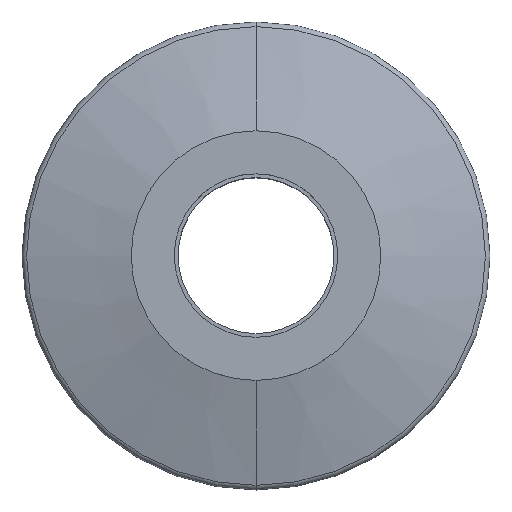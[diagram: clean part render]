
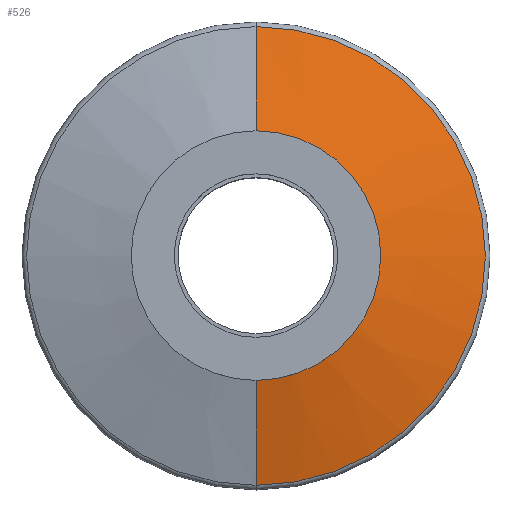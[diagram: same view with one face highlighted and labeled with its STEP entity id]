
A CAD part, top view. The second image highlights one B-rep face of the part: STEP entity #526.
In plain terms, the highlighted conical face has half-angle 75 degrees and reference radius 15 mm.
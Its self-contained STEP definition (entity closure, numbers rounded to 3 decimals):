
#17 = DIRECTION ( 'NONE',  ( 0., 0., 1. ) ) ;
#34 = AXIS2_PLACEMENT_3D ( 'NONE', #164, #17, #372 ) ;
#61 = DIRECTION ( 'NONE',  ( 0., 0., -1. ) ) ;
#74 = DIRECTION ( 'NONE',  ( 0., -1., 0. ) ) ;
#85 = CARTESIAN_POINT ( 'NONE',  ( 0., 0., -36.801 ) ) ;
#89 = EDGE_LOOP ( 'NONE', ( #264, #243, #105, #464 ) ) ;
#90 = VERTEX_POINT ( 'NONE', #561 ) ;
#105 = ORIENTED_EDGE ( 'NONE', *, *, #665, .T. ) ;
#145 = LINE ( 'NONE', #192, #238 ) ;
#164 = CARTESIAN_POINT ( 'NONE',  ( 0., 0., -30.971 ) ) ;
#174 = EDGE_CURVE ( 'NONE', #90, #644, #145, .T. ) ;
#192 = CARTESIAN_POINT ( 'NONE',  ( 0., -15., -30.971 ) ) ;
#238 = VECTOR ( 'NONE', #678, 1000. ) ;
#243 = ORIENTED_EDGE ( 'NONE', *, *, #174, .T. ) ;
#264 = ORIENTED_EDGE ( 'NONE', *, *, #490, .F. ) ;
#270 = DIRECTION ( 'NONE',  ( 0., 0.966, -0.259 ) ) ;
#291 = FACE_OUTER_BOUND ( 'NONE', #89, .T. ) ;
#315 = CIRCLE ( 'NONE', #517, 36.759 ) ;
#328 = CARTESIAN_POINT ( 'NONE',  ( 0., 15., -30.971 ) ) ;
#335 = CARTESIAN_POINT ( 'NONE',  ( 0., 15., -30.971 ) ) ;
#338 = VECTOR ( 'NONE', #270, 1000. ) ;
#344 = VERTEX_POINT ( 'NONE', #380 ) ;
#358 = EDGE_CURVE ( 'NONE', #470, #344, #594, .T. ) ;
#362 = CIRCLE ( 'NONE', #34, 15. ) ;
#372 = DIRECTION ( 'NONE',  ( 0., -1., 0. ) ) ;
#375 = CARTESIAN_POINT ( 'NONE',  ( 0., 0., -30.971 ) ) ;
#380 = CARTESIAN_POINT ( 'NONE',  ( 0., 36.759, -36.801 ) ) ;
#403 = CONICAL_SURFACE ( 'NONE', #646, 15., 1.309 ) ;
#464 = ORIENTED_EDGE ( 'NONE', *, *, #358, .F. ) ;
#470 = VERTEX_POINT ( 'NONE', #335 ) ;
#490 = EDGE_CURVE ( 'NONE', #90, #470, #362, .T. ) ;
#517 = AXIS2_PLACEMENT_3D ( 'NONE', #85, #544, #74 ) ;
#526 = ADVANCED_FACE ( 'NONE', ( #291 ), #403, .T. ) ;
#541 = CARTESIAN_POINT ( 'NONE',  ( 0., -36.759, -36.801 ) ) ;
#544 = DIRECTION ( 'NONE',  ( 0., 0., 1. ) ) ;
#561 = CARTESIAN_POINT ( 'NONE',  ( 0., -15., -30.971 ) ) ;
#594 = LINE ( 'NONE', #328, #338 ) ;
#635 = DIRECTION ( 'NONE',  ( 0., 1., 0. ) ) ;
#644 = VERTEX_POINT ( 'NONE', #541 ) ;
#646 = AXIS2_PLACEMENT_3D ( 'NONE', #375, #61, #635 ) ;
#665 = EDGE_CURVE ( 'NONE', #644, #344, #315, .T. ) ;
#678 = DIRECTION ( 'NONE',  ( 0., -0.966, -0.259 ) ) ;
